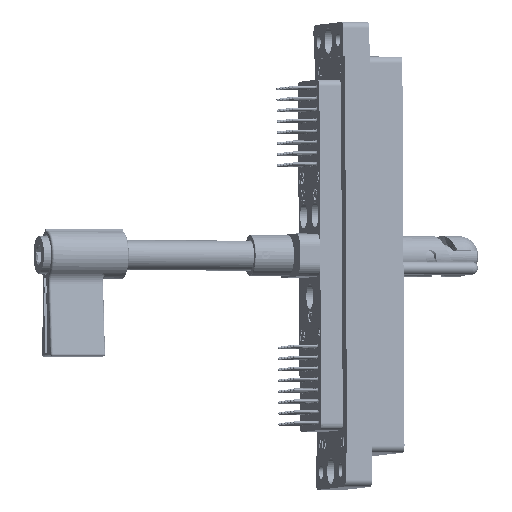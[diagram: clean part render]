
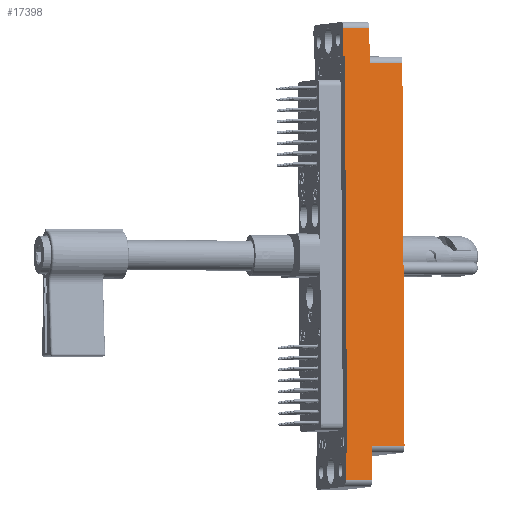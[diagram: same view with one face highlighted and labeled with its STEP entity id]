
A CAD part, front view. The second image highlights one B-rep face of the part: STEP entity #17398.
In plain terms, the highlighted planar face has unit normal (0.277, -0.96, 0.033).
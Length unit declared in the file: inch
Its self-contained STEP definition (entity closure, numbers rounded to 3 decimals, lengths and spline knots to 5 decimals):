
#12830=CARTESIAN_POINT('',(2.25677,1.87412,-2.25654));
#12831=VERTEX_POINT('',#12830);
#12832=CARTESIAN_POINT('',(2.23651,1.99236,1.37247));
#12833=VERTEX_POINT('',#12832);
#12834=CARTESIAN_POINT('',(2.25677,1.87412,-2.25654));
#12835=DIRECTION('',(-0.006,0.033,0.999));
#12836=VECTOR('',#12835,3.631);
#12837=LINE('',#12834,#12836);
#12838=EDGE_CURVE('',#12831,#12833,#12837,.T.);
#16458=CARTESIAN_POINT('',(2.76265,2.14203,1.30895));
#16459=VERTEX_POINT('',#16458);
#16467=CARTESIAN_POINT('',(2.78222,2.0278,-2.19703));
#16468=VERTEX_POINT('',#16467);
#16469=CARTESIAN_POINT('',(2.76265,2.14203,1.30895));
#16470=DIRECTION('',(0.006,-0.033,-0.999));
#16471=VECTOR('',#16470,3.50789);
#16472=LINE('',#16469,#16471);
#16473=EDGE_CURVE('',#16459,#16468,#16472,.T.);
#17199=CARTESIAN_POINT('',(2.22233,1.98826,1.37253));
#17200=VERTEX_POINT('',#17199);
#17207=CARTESIAN_POINT('',(2.22092,1.9965,1.62534));
#17208=VERTEX_POINT('',#17207);
#17209=CARTESIAN_POINT('',(2.22233,1.98826,1.37253));
#17210=DIRECTION('',(-0.006,0.033,0.999));
#17211=VECTOR('',#17210,0.25294);
#17212=LINE('',#17209,#17211);
#17213=EDGE_CURVE('',#17200,#17208,#17212,.T.);
#17240=CARTESIAN_POINT('',(2.46112,2.06579,1.62442));
#17241=VERTEX_POINT('',#17240);
#17251=CARTESIAN_POINT('',(2.22092,1.9965,1.62534));
#17252=DIRECTION('',(0.961,0.277,-0.004));
#17253=VECTOR('',#17252,0.25);
#17254=LINE('',#17251,#17253);
#17255=EDGE_CURVE('',#17208,#17241,#17254,.T.);
#17268=CARTESIAN_POINT('',(2.46288,2.05555,1.31009));
#17269=VERTEX_POINT('',#17268);
#17270=CARTESIAN_POINT('',(2.46112,2.06579,1.62442));
#17271=DIRECTION('',(0.006,-0.033,-0.999));
#17272=VECTOR('',#17271,0.3145);
#17273=LINE('',#17270,#17272);
#17274=EDGE_CURVE('',#17241,#17269,#17273,.T.);
#17336=CARTESIAN_POINT('',(2.48746,2.00271,-0.44295));
#17337=DIRECTION('',(-0.277,0.96,-0.033));
#17338=DIRECTION('',(0.961,0.277,-0.004));
#17339=AXIS2_PLACEMENT_3D('',#17336,#17337,#17338);
#17340=PLANE('',#17339);
#17341=ORIENTED_EDGE('',*,*,#17255,.F.);
#17342=ORIENTED_EDGE('',*,*,#17213,.F.);
#17343=CARTESIAN_POINT('',(2.23651,1.99236,1.37247));
#17344=DIRECTION('',(-0.961,-0.277,0.004));
#17345=VECTOR('',#17344,0.01476);
#17346=LINE('',#17343,#17345);
#17347=EDGE_CURVE('',#12833,#17200,#17346,.T.);
#17348=ORIENTED_EDGE('',*,*,#17347,.F.);
#17349=ORIENTED_EDGE('',*,*,#12838,.F.);
#17350=CARTESIAN_POINT('',(2.24258,1.87003,-2.25649));
#17351=VERTEX_POINT('',#17350);
#17352=CARTESIAN_POINT('',(2.24258,1.87003,-2.25649));
#17353=DIRECTION('',(0.961,0.277,-0.004));
#17354=VECTOR('',#17353,0.01476);
#17355=LINE('',#17352,#17354);
#17356=EDGE_CURVE('',#17351,#12831,#17355,.T.);
#17357=ORIENTED_EDGE('',*,*,#17356,.F.);
#17358=CARTESIAN_POINT('',(2.24399,1.86179,-2.5093));
#17359=VERTEX_POINT('',#17358);
#17360=CARTESIAN_POINT('',(2.24399,1.86179,-2.5093));
#17361=DIRECTION('',(-0.006,0.033,0.999));
#17362=VECTOR('',#17361,0.25294);
#17363=LINE('',#17360,#17362);
#17364=EDGE_CURVE('',#17359,#17351,#17363,.T.);
#17365=ORIENTED_EDGE('',*,*,#17364,.F.);
#17366=CARTESIAN_POINT('',(2.4842,1.93108,-2.51021));
#17367=VERTEX_POINT('',#17366);
#17368=CARTESIAN_POINT('',(2.4842,1.93108,-2.51021));
#17369=DIRECTION('',(-0.961,-0.277,0.004));
#17370=VECTOR('',#17369,0.25);
#17371=LINE('',#17368,#17370);
#17372=EDGE_CURVE('',#17367,#17359,#17371,.T.);
#17373=ORIENTED_EDGE('',*,*,#17372,.F.);
#17374=CARTESIAN_POINT('',(2.48244,1.94132,-2.19588));
#17375=VERTEX_POINT('',#17374);
#17376=CARTESIAN_POINT('',(2.48244,1.94132,-2.19588));
#17377=DIRECTION('',(0.006,-0.033,-0.999));
#17378=VECTOR('',#17377,0.3145);
#17379=LINE('',#17376,#17378);
#17380=EDGE_CURVE('',#17375,#17367,#17379,.T.);
#17381=ORIENTED_EDGE('',*,*,#17380,.F.);
#17382=CARTESIAN_POINT('',(2.78222,2.0278,-2.19703));
#17383=DIRECTION('',(-0.961,-0.277,0.004));
#17384=VECTOR('',#17383,0.312);
#17385=LINE('',#17382,#17384);
#17386=EDGE_CURVE('',#16468,#17375,#17385,.T.);
#17387=ORIENTED_EDGE('',*,*,#17386,.F.);
#17388=ORIENTED_EDGE('',*,*,#16473,.F.);
#17389=CARTESIAN_POINT('',(2.46288,2.05555,1.31009));
#17390=DIRECTION('',(0.961,0.277,-0.004));
#17391=VECTOR('',#17390,0.312);
#17392=LINE('',#17389,#17391);
#17393=EDGE_CURVE('',#17269,#16459,#17392,.T.);
#17394=ORIENTED_EDGE('',*,*,#17393,.F.);
#17395=ORIENTED_EDGE('',*,*,#17274,.F.);
#17396=EDGE_LOOP('',(#17341,#17342,#17348,#17349,#17357,#17365,#17373,#17381,#17387,#17388,#17394,#17395));
#17397=FACE_OUTER_BOUND('',#17396,.T.);
#17398=ADVANCED_FACE('',(#17397),#17340,.F.);
